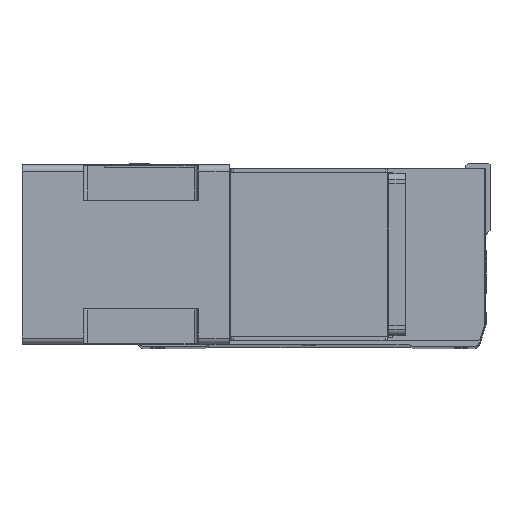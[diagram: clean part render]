
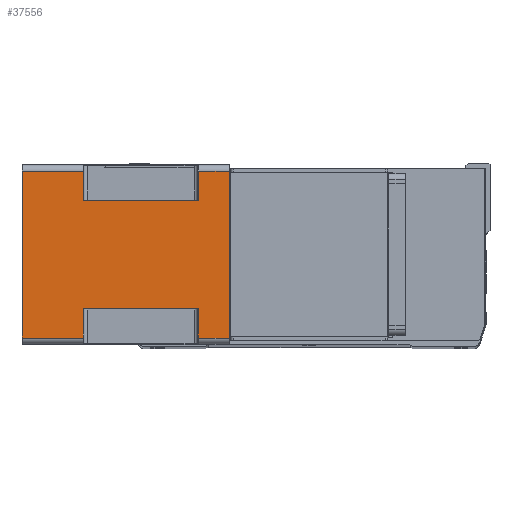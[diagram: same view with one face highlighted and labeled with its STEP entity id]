
A CAD part, top view. The second image highlights one B-rep face of the part: STEP entity #37556.
In plain terms, the highlighted planar face has unit normal (0, 0, 1) as drawn and (-1, 0, 0) by its records, which use the part's own axes.
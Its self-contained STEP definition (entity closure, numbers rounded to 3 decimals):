
#2184 = EDGE_CURVE ( 'NONE', #7458, #25801, #4553, .T. ) ;
#2350 = CARTESIAN_POINT ( 'NONE',  ( -71., 43., -164. ) ) ;
#2533 = DIRECTION ( 'NONE',  ( 0., 1., 0. ) ) ;
#3397 = VERTEX_POINT ( 'NONE', #13322 ) ;
#3648 = DIRECTION ( 'NONE',  ( 0., 0., 1. ) ) ;
#4001 = LINE ( 'NONE', #32352, #21318 ) ;
#4118 = CARTESIAN_POINT ( 'NONE',  ( -71., -66., -24.5 ) ) ;
#4291 = LINE ( 'NONE', #29412, #38880 ) ;
#4319 = CARTESIAN_POINT ( 'NONE',  ( -71., -66., 0. ) ) ;
#4553 = LINE ( 'NONE', #5933, #23460 ) ;
#5002 = VECTOR ( 'NONE', #31676, 1000. ) ;
#5529 = EDGE_CURVE ( 'NONE', #31993, #25801, #16633, .T. ) ;
#5912 = VERTEX_POINT ( 'NONE', #15780 ) ;
#5933 = CARTESIAN_POINT ( 'NONE',  ( -71., -43., -115.5 ) ) ;
#6067 = CARTESIAN_POINT ( 'NONE',  ( -71., -43., -24.5 ) ) ;
#6611 = CARTESIAN_POINT ( 'NONE',  ( -71., -66., -115.5 ) ) ;
#7165 = VECTOR ( 'NONE', #33657, 1000. ) ;
#7458 = VERTEX_POINT ( 'NONE', #6611 ) ;
#7669 = ORIENTED_EDGE ( 'NONE', *, *, #38140, .T. ) ;
#8165 = VERTEX_POINT ( 'NONE', #24605 ) ;
#10397 = CARTESIAN_POINT ( 'NONE',  ( -71., 66., -115.5 ) ) ;
#11366 = VECTOR ( 'NONE', #20044, 1000. ) ;
#13196 = ORIENTED_EDGE ( 'NONE', *, *, #2184, .T. ) ;
#13322 = CARTESIAN_POINT ( 'NONE',  ( -71., 66., 0. ) ) ;
#13542 = VECTOR ( 'NONE', #35758, 1000. ) ;
#14331 = CARTESIAN_POINT ( 'NONE',  ( -71., -66., -164. ) ) ;
#15780 = CARTESIAN_POINT ( 'NONE',  ( -71., 43., -115.5 ) ) ;
#16014 = LINE ( 'NONE', #4118, #24850 ) ;
#16570 = EDGE_CURVE ( 'NONE', #3397, #30366, #24538, .T. ) ;
#16633 = LINE ( 'NONE', #40210, #11366 ) ;
#17414 = EDGE_CURVE ( 'NONE', #41924, #34300, #21354, .T. ) ;
#17417 = DIRECTION ( 'NONE',  ( 0., -1., 0. ) ) ;
#17574 = ORIENTED_EDGE ( 'NONE', *, *, #18140, .T. ) ;
#17785 = DIRECTION ( 'NONE',  ( 0., -1., 0. ) ) ;
#17795 = VECTOR ( 'NONE', #27850, 1000. ) ;
#17887 = CARTESIAN_POINT ( 'NONE',  ( -71., -66., -164. ) ) ;
#18140 = EDGE_CURVE ( 'NONE', #25149, #7458, #29551, .T. ) ;
#19648 = VECTOR ( 'NONE', #3648, 1000. ) ;
#20044 = DIRECTION ( 'NONE',  ( 0., 0., -1. ) ) ;
#20663 = VERTEX_POINT ( 'NONE', #42469 ) ;
#20698 = CARTESIAN_POINT ( 'NONE',  ( -71., 66., -164. ) ) ;
#20866 = ORIENTED_EDGE ( 'NONE', *, *, #32088, .F. ) ;
#21300 = FACE_OUTER_BOUND ( 'NONE', #23889, .T. ) ;
#21318 = VECTOR ( 'NONE', #2533, 1000. ) ;
#21354 = LINE ( 'NONE', #32383, #13542 ) ;
#22247 = DIRECTION ( 'NONE',  ( 0., 0., 1. ) ) ;
#22686 = DIRECTION ( 'NONE',  ( 0., -1., 0. ) ) ;
#22898 = EDGE_CURVE ( 'NONE', #5912, #34300, #4001, .T. ) ;
#22951 = CARTESIAN_POINT ( 'NONE',  ( -71., -66., -164. ) ) ;
#22967 = AXIS2_PLACEMENT_3D ( 'NONE', #14331, #30785, #17417 ) ;
#23460 = VECTOR ( 'NONE', #28907, 1000. ) ;
#23889 = EDGE_LOOP ( 'NONE', ( #17574, #13196, #36608, #7669, #31601, #39340, #20866, #39732, #40589, #41741, #24507, #43269 ) ) ;
#23967 = LINE ( 'NONE', #17887, #36519 ) ;
#23999 = CARTESIAN_POINT ( 'NONE',  ( -71., -43., -115.5 ) ) ;
#24507 = ORIENTED_EDGE ( 'NONE', *, *, #17414, .F. ) ;
#24538 = LINE ( 'NONE', #4319, #17795 ) ;
#24605 = CARTESIAN_POINT ( 'NONE',  ( -71., 43., -24.5 ) ) ;
#24850 = VECTOR ( 'NONE', #17785, 1000. ) ;
#25027 = EDGE_CURVE ( 'NONE', #5912, #8165, #28885, .T. ) ;
#25149 = VERTEX_POINT ( 'NONE', #22951 ) ;
#25801 = VERTEX_POINT ( 'NONE', #23999 ) ;
#27197 = CARTESIAN_POINT ( 'NONE',  ( -71., -66., -164. ) ) ;
#27717 = EDGE_CURVE ( 'NONE', #20663, #30366, #31675, .T. ) ;
#27850 = DIRECTION ( 'NONE',  ( 0., -1., 0. ) ) ;
#28320 = VECTOR ( 'NONE', #22247, 1000. ) ;
#28885 = LINE ( 'NONE', #2350, #28320 ) ;
#28907 = DIRECTION ( 'NONE',  ( 0., 1., 0. ) ) ;
#29412 = CARTESIAN_POINT ( 'NONE',  ( -71., 43., -24.5 ) ) ;
#29551 = LINE ( 'NONE', #27197, #19648 ) ;
#30366 = VERTEX_POINT ( 'NONE', #41546 ) ;
#30785 = DIRECTION ( 'NONE',  ( -1., 0., 0. ) ) ;
#31601 = ORIENTED_EDGE ( 'NONE', *, *, #27717, .T. ) ;
#31675 = LINE ( 'NONE', #41271, #5002 ) ;
#31676 = DIRECTION ( 'NONE',  ( 0., 0., 1. ) ) ;
#31993 = VERTEX_POINT ( 'NONE', #6067 ) ;
#32088 = EDGE_CURVE ( 'NONE', #36842, #3397, #35360, .T. ) ;
#32352 = CARTESIAN_POINT ( 'NONE',  ( -71., -66., -115.5 ) ) ;
#32383 = CARTESIAN_POINT ( 'NONE',  ( -71., 66., -164. ) ) ;
#33657 = DIRECTION ( 'NONE',  ( 0., 0., 1. ) ) ;
#33851 = EDGE_CURVE ( 'NONE', #36842, #8165, #4291, .T. ) ;
#34300 = VERTEX_POINT ( 'NONE', #10397 ) ;
#34623 = DIRECTION ( 'NONE',  ( 0., -1., 0. ) ) ;
#35360 = LINE ( 'NONE', #20698, #7165 ) ;
#35758 = DIRECTION ( 'NONE',  ( 0., 0., 1. ) ) ;
#35843 = CARTESIAN_POINT ( 'NONE',  ( -71., 66., -24.5 ) ) ;
#36519 = VECTOR ( 'NONE', #34623, 1000. ) ;
#36608 = ORIENTED_EDGE ( 'NONE', *, *, #5529, .F. ) ;
#36842 = VERTEX_POINT ( 'NONE', #35843 ) ;
#37112 = EDGE_CURVE ( 'NONE', #41924, #25149, #23967, .T. ) ;
#37556 = ADVANCED_FACE ( 'NONE', ( #21300 ), #40649, .T. ) ;
#38140 = EDGE_CURVE ( 'NONE', #31993, #20663, #16014, .T. ) ;
#38880 = VECTOR ( 'NONE', #22686, 1000. ) ;
#38943 = CARTESIAN_POINT ( 'NONE',  ( -71., 66., -164. ) ) ;
#39340 = ORIENTED_EDGE ( 'NONE', *, *, #16570, .F. ) ;
#39732 = ORIENTED_EDGE ( 'NONE', *, *, #33851, .T. ) ;
#40210 = CARTESIAN_POINT ( 'NONE',  ( -71., -43., -164. ) ) ;
#40589 = ORIENTED_EDGE ( 'NONE', *, *, #25027, .F. ) ;
#40649 = PLANE ( 'NONE',  #22967 ) ;
#41271 = CARTESIAN_POINT ( 'NONE',  ( -71., -66., -164. ) ) ;
#41546 = CARTESIAN_POINT ( 'NONE',  ( -71., -66., 0. ) ) ;
#41741 = ORIENTED_EDGE ( 'NONE', *, *, #22898, .T. ) ;
#41924 = VERTEX_POINT ( 'NONE', #38943 ) ;
#42469 = CARTESIAN_POINT ( 'NONE',  ( -71., -66., -24.5 ) ) ;
#43269 = ORIENTED_EDGE ( 'NONE', *, *, #37112, .T. ) ;
